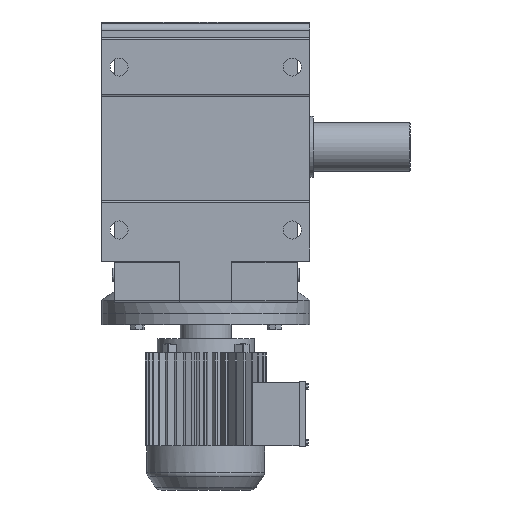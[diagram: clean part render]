
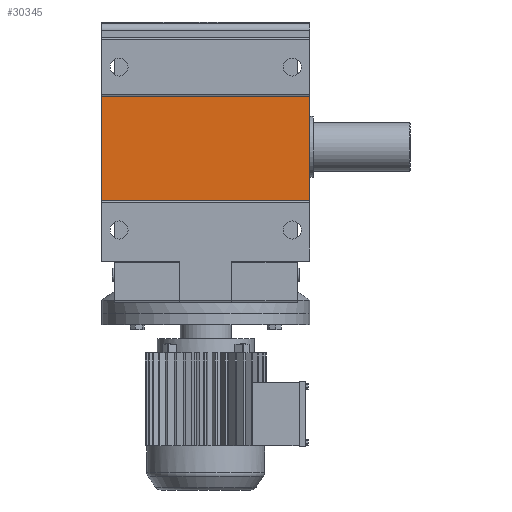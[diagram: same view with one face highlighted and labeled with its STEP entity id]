
A CAD part, front view. The second image highlights one B-rep face of the part: STEP entity #30345.
In plain terms, the highlighted planar face has unit normal (0, -1, 0).
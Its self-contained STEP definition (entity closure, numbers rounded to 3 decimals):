
#8408 = PLANE('',#8409);
#8409 = AXIS2_PLACEMENT_3D('',#8410,#8411,#8412);
#8410 = CARTESIAN_POINT('',(150.,-213.,389.25));
#8411 = DIRECTION('',(1.,0.,0.));
#8412 = DIRECTION('',(0.,0.,-1.));
#19237 = VERTEX_POINT('',#19238);
#19238 = CARTESIAN_POINT('',(150.,-223.,294.25));
#19257 = CYLINDRICAL_SURFACE('',#19258,2.);
#19258 = AXIS2_PLACEMENT_3D('',#19259,#19260,#19261);
#19259 = CARTESIAN_POINT('',(150.,-225.,294.25));
#19260 = DIRECTION('',(-1.,0.,0.));
#19261 = DIRECTION('',(0.,0.,1.));
#19268 = EDGE_CURVE('',#19237,#19269,#19271,.T.);
#19269 = VERTEX_POINT('',#19270);
#19270 = CARTESIAN_POINT('',(150.,-223.,143.25));
#19271 = SURFACE_CURVE('',#19272,(#19276,#19283),.PCURVE_S1.);
#19272 = LINE('',#19273,#19274);
#19273 = CARTESIAN_POINT('',(150.,-223.,294.25));
#19274 = VECTOR('',#19275,1.);
#19275 = DIRECTION('',(0.,0.,-1.));
#19276 = PCURVE('',#8408,#19277);
#19277 = DEFINITIONAL_REPRESENTATION('',(#19278),#19282);
#19278 = LINE('',#19279,#19280);
#19279 = CARTESIAN_POINT('',(95.,-10.));
#19280 = VECTOR('',#19281,1.);
#19281 = DIRECTION('',(1.,0.));
#19282 = ( GEOMETRIC_REPRESENTATION_CONTEXT(2) 
PARAMETRIC_REPRESENTATION_CONTEXT() REPRESENTATION_CONTEXT('2D SPACE',''
  ) );
#19283 = PCURVE('',#19284,#19289);
#19284 = PLANE('',#19285);
#19285 = AXIS2_PLACEMENT_3D('',#19286,#19287,#19288);
#19286 = CARTESIAN_POINT('',(150.,-223.,294.25));
#19287 = DIRECTION('',(0.,1.,0.));
#19288 = DIRECTION('',(0.,0.,1.));
#19289 = DEFINITIONAL_REPRESENTATION('',(#19290),#19294);
#19290 = LINE('',#19291,#19292);
#19291 = CARTESIAN_POINT('',(0.,0.));
#19292 = VECTOR('',#19293,1.);
#19293 = DIRECTION('',(-1.,0.));
#19294 = ( GEOMETRIC_REPRESENTATION_CONTEXT(2) 
PARAMETRIC_REPRESENTATION_CONTEXT() REPRESENTATION_CONTEXT('2D SPACE',''
  ) );
#19317 = CYLINDRICAL_SURFACE('',#19318,2.);
#19318 = AXIS2_PLACEMENT_3D('',#19319,#19320,#19321);
#19319 = CARTESIAN_POINT('',(150.,-225.,143.25));
#19320 = DIRECTION('',(-1.,0.,0.));
#19321 = DIRECTION('',(0.,0.,1.));
#22061 = PLANE('',#22062);
#22062 = AXIS2_PLACEMENT_3D('',#22063,#22064,#22065);
#22063 = CARTESIAN_POINT('',(-150.,-213.,389.25));
#22064 = DIRECTION('',(1.,0.,0.));
#22065 = DIRECTION('',(0.,0.,-1.));
#29940 = EDGE_CURVE('',#19269,#29941,#29943,.T.);
#29941 = VERTEX_POINT('',#29942);
#29942 = CARTESIAN_POINT('',(-150.,-223.,143.25));
#29943 = SURFACE_CURVE('',#29944,(#29948,#29954),.PCURVE_S1.);
#29944 = LINE('',#29945,#29946);
#29945 = CARTESIAN_POINT('',(150.,-223.,143.25));
#29946 = VECTOR('',#29947,1.);
#29947 = DIRECTION('',(-1.,0.,0.));
#29948 = PCURVE('',#19317,#29949);
#29949 = DEFINITIONAL_REPRESENTATION('',(#29950),#29953);
#29950 = B_SPLINE_CURVE_WITH_KNOTS('',1,(#29951,#29952),.UNSPECIFIED.,
  .F.,.F.,(2,2),(0.,300.),.PIECEWISE_BEZIER_KNOTS.);
#29951 = CARTESIAN_POINT('',(1.571,0.));
#29952 = CARTESIAN_POINT('',(1.571,300.));
#29953 = ( GEOMETRIC_REPRESENTATION_CONTEXT(2) 
PARAMETRIC_REPRESENTATION_CONTEXT() REPRESENTATION_CONTEXT('2D SPACE',''
  ) );
#29954 = PCURVE('',#19284,#29955);
#29955 = DEFINITIONAL_REPRESENTATION('',(#29956),#29960);
#29956 = LINE('',#29957,#29958);
#29957 = CARTESIAN_POINT('',(-151.,0.));
#29958 = VECTOR('',#29959,1.);
#29959 = DIRECTION('',(0.,-1.));
#29960 = ( GEOMETRIC_REPRESENTATION_CONTEXT(2) 
PARAMETRIC_REPRESENTATION_CONTEXT() REPRESENTATION_CONTEXT('2D SPACE',''
  ) );
#30345 = ADVANCED_FACE('',(#30346),#19284,.F.);
#30346 = FACE_BOUND('',#30347,.T.);
#30347 = EDGE_LOOP('',(#30348,#30370,#30391,#30392));
#30348 = ORIENTED_EDGE('',*,*,#30349,.T.);
#30349 = EDGE_CURVE('',#19237,#30350,#30352,.T.);
#30350 = VERTEX_POINT('',#30351);
#30351 = CARTESIAN_POINT('',(-150.,-223.,294.25));
#30352 = SURFACE_CURVE('',#30353,(#30357,#30364),.PCURVE_S1.);
#30353 = LINE('',#30354,#30355);
#30354 = CARTESIAN_POINT('',(150.,-223.,294.25));
#30355 = VECTOR('',#30356,1.);
#30356 = DIRECTION('',(-1.,0.,0.));
#30357 = PCURVE('',#19284,#30358);
#30358 = DEFINITIONAL_REPRESENTATION('',(#30359),#30363);
#30359 = LINE('',#30360,#30361);
#30360 = CARTESIAN_POINT('',(0.,0.));
#30361 = VECTOR('',#30362,1.);
#30362 = DIRECTION('',(0.,-1.));
#30363 = ( GEOMETRIC_REPRESENTATION_CONTEXT(2) 
PARAMETRIC_REPRESENTATION_CONTEXT() REPRESENTATION_CONTEXT('2D SPACE',''
  ) );
#30364 = PCURVE('',#19257,#30365);
#30365 = DEFINITIONAL_REPRESENTATION('',(#30366),#30369);
#30366 = B_SPLINE_CURVE_WITH_KNOTS('',1,(#30367,#30368),.UNSPECIFIED.,
  .F.,.F.,(2,2),(0.,300.),.PIECEWISE_BEZIER_KNOTS.);
#30367 = CARTESIAN_POINT('',(1.571,0.));
#30368 = CARTESIAN_POINT('',(1.571,300.));
#30369 = ( GEOMETRIC_REPRESENTATION_CONTEXT(2) 
PARAMETRIC_REPRESENTATION_CONTEXT() REPRESENTATION_CONTEXT('2D SPACE',''
  ) );
#30370 = ORIENTED_EDGE('',*,*,#30371,.T.);
#30371 = EDGE_CURVE('',#30350,#29941,#30372,.T.);
#30372 = SURFACE_CURVE('',#30373,(#30377,#30384),.PCURVE_S1.);
#30373 = LINE('',#30374,#30375);
#30374 = CARTESIAN_POINT('',(-150.,-223.,294.25));
#30375 = VECTOR('',#30376,1.);
#30376 = DIRECTION('',(0.,0.,-1.));
#30377 = PCURVE('',#19284,#30378);
#30378 = DEFINITIONAL_REPRESENTATION('',(#30379),#30383);
#30379 = LINE('',#30380,#30381);
#30380 = CARTESIAN_POINT('',(0.,-300.));
#30381 = VECTOR('',#30382,1.);
#30382 = DIRECTION('',(-1.,0.));
#30383 = ( GEOMETRIC_REPRESENTATION_CONTEXT(2) 
PARAMETRIC_REPRESENTATION_CONTEXT() REPRESENTATION_CONTEXT('2D SPACE',''
  ) );
#30384 = PCURVE('',#22061,#30385);
#30385 = DEFINITIONAL_REPRESENTATION('',(#30386),#30390);
#30386 = LINE('',#30387,#30388);
#30387 = CARTESIAN_POINT('',(95.,-10.));
#30388 = VECTOR('',#30389,1.);
#30389 = DIRECTION('',(1.,0.));
#30390 = ( GEOMETRIC_REPRESENTATION_CONTEXT(2) 
PARAMETRIC_REPRESENTATION_CONTEXT() REPRESENTATION_CONTEXT('2D SPACE',''
  ) );
#30391 = ORIENTED_EDGE('',*,*,#29940,.F.);
#30392 = ORIENTED_EDGE('',*,*,#19268,.F.);
